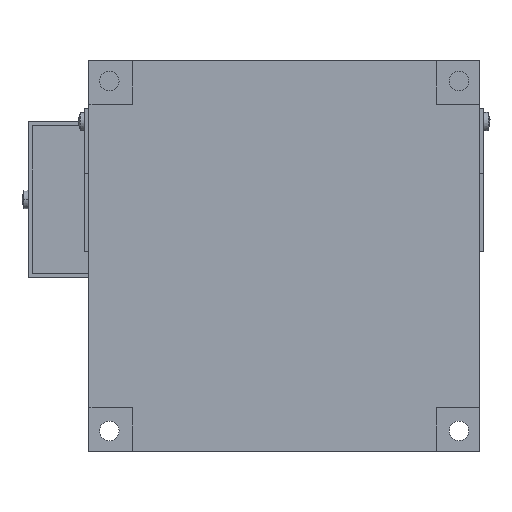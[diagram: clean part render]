
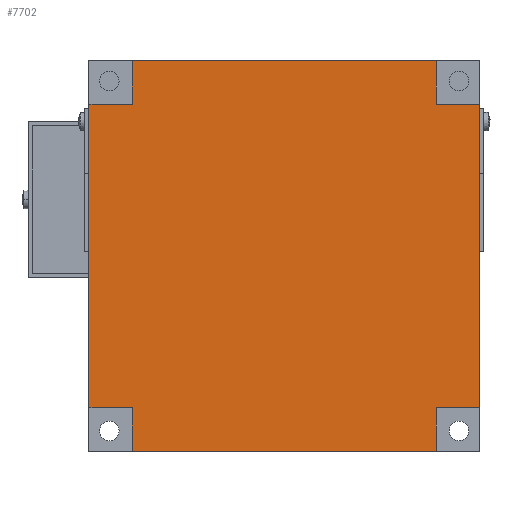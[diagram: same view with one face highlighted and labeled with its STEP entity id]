
A CAD part, front view. The second image highlights one B-rep face of the part: STEP entity #7702.
In plain terms, the highlighted planar face has unit normal (0, -1, 0).
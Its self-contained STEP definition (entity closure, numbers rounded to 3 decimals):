
#2674 = CARTESIAN_POINT ( 'NONE',  ( -45., 0.5, 35. ) ) ;
#2675 = DIRECTION ( 'NONE',  ( 0., 0., 1. ) ) ;
#2676 = VECTOR ( 'NONE', #2675, 1000. ) ;
#2677 = CARTESIAN_POINT ( 'NONE',  ( -45., 0.5, 45. ) ) ;
#2678 = LINE ( 'NONE', #2677, #2676 ) ;
#2745 = CARTESIAN_POINT ( 'NONE',  ( 45., 0.5, -35. ) ) ;
#2746 = DIRECTION ( 'NONE',  ( 0., 0., -1. ) ) ;
#2747 = VECTOR ( 'NONE', #2746, 1000. ) ;
#2748 = CARTESIAN_POINT ( 'NONE',  ( 45., 0.5, 45. ) ) ;
#2749 = LINE ( 'NONE', #2748, #2747 ) ;
#2750 = CARTESIAN_POINT ( 'NONE',  ( 45., 0.5, 35. ) ) ;
#2826 = CARTESIAN_POINT ( 'NONE',  ( -45., 0.5, -35. ) ) ;
#7414 = VERTEX_POINT ( 'NONE', #16371 ) ;
#7416 = EDGE_CURVE ( 'NONE', #7414, #7417, #16370, .T. ) ;
#7417 = VERTEX_POINT ( 'NONE', #16366 ) ;
#7496 = EDGE_CURVE ( 'NONE', #24426, #7625, #16623, .T. ) ;
#7497 = ORIENTED_EDGE ( 'NONE', *, *, #7498, .T. ) ;
#7498 = EDGE_CURVE ( 'NONE', #7625, #7499, #16619, .T. ) ;
#7499 = VERTEX_POINT ( 'NONE', #16615 ) ;
#7500 = ORIENTED_EDGE ( 'NONE', *, *, #7501, .F. ) ;
#7501 = EDGE_CURVE ( 'NONE', #7502, #7499, #16614, .T. ) ;
#7502 = VERTEX_POINT ( 'NONE', #16610 ) ;
#7503 = ORIENTED_EDGE ( 'NONE', *, *, #7504, .T. ) ;
#7504 = EDGE_CURVE ( 'NONE', #7502, #7505, #16609, .T. ) ;
#7505 = VERTEX_POINT ( 'NONE', #16605 ) ;
#7506 = ORIENTED_EDGE ( 'NONE', *, *, #7507, .T. ) ;
#7507 = EDGE_CURVE ( 'NONE', #7505, #24541, #16604, .T. ) ;
#7508 = ORIENTED_EDGE ( 'NONE', *, *, #24540, .F. ) ;
#7622 = EDGE_CURVE ( 'NONE', #7721, #24505, #16829, .T. ) ;
#7623 = ORIENTED_EDGE ( 'NONE', *, *, #24504, .F. ) ;
#7624 = ORIENTED_EDGE ( 'NONE', *, *, #7496, .T. ) ;
#7625 = VERTEX_POINT ( 'NONE', #16825 ) ;
#7698 = VERTEX_POINT ( 'NONE', #17045 ) ;
#7700 = EDGE_CURVE ( 'NONE', #24538, #7698, #17044, .T. ) ;
#7702 = ADVANCED_FACE ( 'NONE', ( #17040 ), #17039, .F. ) ;
#7703 = EDGE_LOOP ( 'NONE', ( #7704, #7705, #7718, #7719, #7722, #7623, #7624, #7497, #7500, #7503, #7506, #7508 ) ) ;
#7704 = ORIENTED_EDGE ( 'NONE', *, *, #7700, .T. ) ;
#7705 = ORIENTED_EDGE ( 'NONE', *, *, #7717, .T. ) ;
#7717 = EDGE_CURVE ( 'NONE', #7698, #7417, #17076, .T. ) ;
#7718 = ORIENTED_EDGE ( 'NONE', *, *, #7416, .F. ) ;
#7719 = ORIENTED_EDGE ( 'NONE', *, *, #7720, .T. ) ;
#7720 = EDGE_CURVE ( 'NONE', #7414, #7721, #17072, .T. ) ;
#7721 = VERTEX_POINT ( 'NONE', #17068 ) ;
#7722 = ORIENTED_EDGE ( 'NONE', *, *, #7622, .T. ) ;
#16366 = CARTESIAN_POINT ( 'NONE',  ( 35., 0.5, 45. ) ) ;
#16367 = DIRECTION ( 'NONE',  ( 1., 0., 0. ) ) ;
#16368 = VECTOR ( 'NONE', #16367, 1000. ) ;
#16369 = CARTESIAN_POINT ( 'NONE',  ( 45., 0.5, 45. ) ) ;
#16370 = LINE ( 'NONE', #16369, #16368 ) ;
#16371 = CARTESIAN_POINT ( 'NONE',  ( -35., 0.5, 45. ) ) ;
#16602 = VECTOR ( 'NONE', #16665, 1000. ) ;
#16603 = CARTESIAN_POINT ( 'NONE',  ( 45., 0.5, -35. ) ) ;
#16604 = LINE ( 'NONE', #16603, #16602 ) ;
#16605 = CARTESIAN_POINT ( 'NONE',  ( 35., 0.5, -35. ) ) ;
#16606 = DIRECTION ( 'NONE',  ( 0., 0., 1. ) ) ;
#16607 = VECTOR ( 'NONE', #16606, 1000. ) ;
#16608 = CARTESIAN_POINT ( 'NONE',  ( 35., 0.5, -45. ) ) ;
#16609 = LINE ( 'NONE', #16608, #16607 ) ;
#16610 = CARTESIAN_POINT ( 'NONE',  ( 35., 0.5, -45. ) ) ;
#16611 = DIRECTION ( 'NONE',  ( -1., 0., 0. ) ) ;
#16612 = VECTOR ( 'NONE', #16611, 1000. ) ;
#16613 = CARTESIAN_POINT ( 'NONE',  ( 45., 0.5, -45. ) ) ;
#16614 = LINE ( 'NONE', #16613, #16612 ) ;
#16615 = CARTESIAN_POINT ( 'NONE',  ( -35., 0.5, -45. ) ) ;
#16616 = DIRECTION ( 'NONE',  ( 0., 0., -1. ) ) ;
#16617 = VECTOR ( 'NONE', #16616, 1000. ) ;
#16618 = CARTESIAN_POINT ( 'NONE',  ( -35., 0.5, -45. ) ) ;
#16619 = LINE ( 'NONE', #16618, #16617 ) ;
#16620 = DIRECTION ( 'NONE',  ( 1., 0., 0. ) ) ;
#16621 = VECTOR ( 'NONE', #16620, 1000. ) ;
#16622 = CARTESIAN_POINT ( 'NONE',  ( -35., 0.5, -35. ) ) ;
#16623 = LINE ( 'NONE', #16622, #16621 ) ;
#16665 = DIRECTION ( 'NONE',  ( 1., 0., 0. ) ) ;
#16825 = CARTESIAN_POINT ( 'NONE',  ( -35., 0.5, -35. ) ) ;
#16826 = DIRECTION ( 'NONE',  ( -1., 0., 0. ) ) ;
#16827 = VECTOR ( 'NONE', #16826, 1000. ) ;
#16828 = CARTESIAN_POINT ( 'NONE',  ( -35., 0.5, 35. ) ) ;
#16829 = LINE ( 'NONE', #16828, #16827 ) ;
#17035 = DIRECTION ( 'NONE',  ( 0., 0., -1. ) ) ;
#17036 = DIRECTION ( 'NONE',  ( 0., 1., 0. ) ) ;
#17037 = CARTESIAN_POINT ( 'NONE',  ( 0., 0.5, 0. ) ) ;
#17038 = AXIS2_PLACEMENT_3D ( 'NONE', #17037, #17036, #17035 ) ;
#17039 = PLANE ( 'NONE',  #17038 ) ;
#17040 = FACE_OUTER_BOUND ( 'NONE', #7703, .T. ) ;
#17041 = DIRECTION ( 'NONE',  ( -1., 0., 0. ) ) ;
#17042 = VECTOR ( 'NONE', #17041, 1000. ) ;
#17043 = CARTESIAN_POINT ( 'NONE',  ( 45., 0.5, 35. ) ) ;
#17044 = LINE ( 'NONE', #17043, #17042 ) ;
#17045 = CARTESIAN_POINT ( 'NONE',  ( 35., 0.5, 35. ) ) ;
#17068 = CARTESIAN_POINT ( 'NONE',  ( -35., 0.5, 35. ) ) ;
#17069 = DIRECTION ( 'NONE',  ( 0., 0., -1. ) ) ;
#17070 = VECTOR ( 'NONE', #17069, 1000. ) ;
#17071 = CARTESIAN_POINT ( 'NONE',  ( -35., 0.5, 35. ) ) ;
#17072 = LINE ( 'NONE', #17071, #17070 ) ;
#17073 = DIRECTION ( 'NONE',  ( 0., 0., 1. ) ) ;
#17074 = VECTOR ( 'NONE', #17073, 1000. ) ;
#17075 = CARTESIAN_POINT ( 'NONE',  ( 35., 0.5, 35. ) ) ;
#17076 = LINE ( 'NONE', #17075, #17074 ) ;
#24426 = VERTEX_POINT ( 'NONE', #2826 ) ;
#24504 = EDGE_CURVE ( 'NONE', #24426, #24505, #2678, .T. ) ;
#24505 = VERTEX_POINT ( 'NONE', #2674 ) ;
#24538 = VERTEX_POINT ( 'NONE', #2750 ) ;
#24540 = EDGE_CURVE ( 'NONE', #24538, #24541, #2749, .T. ) ;
#24541 = VERTEX_POINT ( 'NONE', #2745 ) ;
